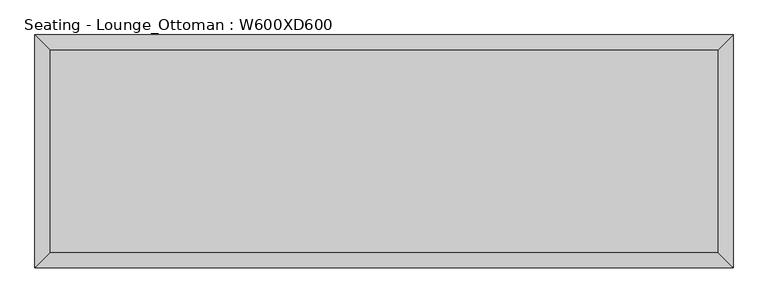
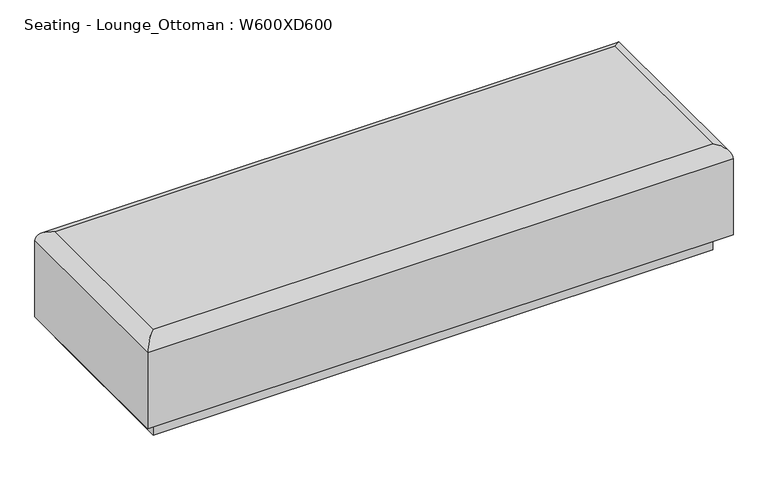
"""IFC4 building model written with IfcOpenShell, lengths in millimetres: furniture geometry, Seating - Lounge_Ottoman : W600XD600."""

from ifc_helpers import new_model, si_unit, frame, origin, place, context, project, spatial, ellipse_curve, source, transform, mapped, element, save
from ifc_brep_helpers import plane_surface, cylinder_surface, advanced_brep


def seating_lounge_ottoman_w600xd600_d2cb215e(model_context):
    return source(origin(), model_context, "Body", "AdvancedBrep", [
        advanced_brep(
        [(-874.4, -264.8, 350.0), (874.4, -264.8, 350.0), (874.4, 264.8, 350.0), (-874.4, 264.8, 350.0), (874.4, -264.8, 0.0), (-874.4, -264.8, 0.0), (-874.4, 264.8, 0.0), (874.4, 264.8, 0.0), (874.4, -264.8, 60.0), (-874.4, -264.8, 60.0), (-874.4, 264.8, 60.0), (874.4, 264.8, 60.0), (-914.4, -304.8, 310.0), (-914.4, 304.8, 310.0), (-914.4, 304.8, 60.0), (-914.4, -304.8, 60.0), (914.4, 304.8, 310.0), (914.4, 304.8, 60.0), (914.4, -304.8, 310.0), (914.4, -304.8, 60.0)],
        [
            (0, 1),
            (1, 2),
            (2, 3),
            (3, 0),
            (4, 5),
            (5, 6),
            (6, 7),
            (7, 4),
            (4, 8),
            (8, 9),
            (9, 5),
            (9, 10),
            (10, 6),
            (10, 11),
            (11, 7),
            (11, 8),
            (12, 13),
            (13, 14),
            (14, 15),
            (15, 12),
            (12, 0, ellipse_curve(frame((-874.4, -264.8, 310.0), z_axis=(-0.7071067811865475, 0.7071067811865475, 0.0), x_axis=(-0.7071067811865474, -0.7071067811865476, 0.0)), 56.5685425, 40.0)),
            (3, 13, ellipse_curve(frame((-874.4, 264.8, 310.0), z_axis=(-0.7071067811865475, -0.7071067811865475, 0.0), x_axis=(0.7071067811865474, -0.7071067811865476, 0.0)), 56.5685425, 40.0)),
            (13, 16),
            (16, 17),
            (17, 14),
            (2, 16, ellipse_curve(frame((874.4, 264.8, 310.0), z_axis=(-0.7071067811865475, 0.7071067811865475, 0.0), x_axis=(-0.7071067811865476, -0.7071067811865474, 0.0)), 56.5685425, 40.0)),
            (16, 18),
            (18, 19),
            (19, 17),
            (1, 18, ellipse_curve(frame((874.4, -264.8, 310.0), z_axis=(0.7071067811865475, 0.7071067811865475, 0.0), x_axis=(-0.7071067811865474, 0.7071067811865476, 0.0)), 56.5685425, 40.0)),
            (19, 15),
            (18, 12),
        ],
        [
            plane_surface(frame((-874.4, -264.8, 350.0), z_axis=(0.0, 0.0, 1.0), x_axis=(-1.0, 0.0, 0.0))),
            plane_surface(frame((-874.4, -264.8, 0.0), z_axis=(0.0, 0.0, -1.0), x_axis=(1.0, 0.0, 0.0))),
            plane_surface(frame((874.4, -264.8, 350.0), z_axis=(0.0, -1.0, 0.0), x_axis=(0.0, 0.0, -1.0))),
            plane_surface(frame((-874.4, -264.8, 350.0), z_axis=(-1.0, 0.0, 0.0), x_axis=(0.0, 0.0, -1.0))),
            plane_surface(frame((-874.4, 264.8, 350.0), z_axis=(0.0, 1.0, 0.0), x_axis=(0.0, 0.0, -1.0))),
            plane_surface(frame((874.4, 264.8, 350.0), z_axis=(1.0, 0.0, 0.0), x_axis=(0.0, 0.0, -1.0))),
            plane_surface(frame((-914.4, -304.8, 60.0), z_axis=(-1.0, 0.0, 0.0), x_axis=(0.0, 1.0, 0.0))),
            cylinder_surface(frame((-874.4, -264.8, 310.0), z_axis=(0.0, -1.0, 0.0), x_axis=(1.0, 0.0, 0.0)), 40.0),
            plane_surface(frame((-914.4, 304.8, 60.0), z_axis=(0.0, 1.0, 0.0), x_axis=(1.0, 0.0, 0.0))),
            cylinder_surface(frame((-874.4, 264.8, 310.0), z_axis=(-1.0, 0.0, 0.0), x_axis=(0.0, -1.0, 0.0)), 40.0),
            plane_surface(frame((914.4, 304.8, 60.0), z_axis=(1.0, 0.0, 0.0), x_axis=(0.0, -1.0, 0.0))),
            cylinder_surface(frame((874.4, 264.8, 310.0), z_axis=(0.0, 1.0, 0.0), x_axis=(-1.0, 0.0, 0.0)), 40.0),
            plane_surface(frame((874.4, -264.8, 60.0), z_axis=(0.0, 0.0, -1.0), x_axis=(-1.0, 0.0, 0.0))),
            plane_surface(frame((914.4, -304.8, 60.0), z_axis=(0.0, -1.0, 0.0), x_axis=(-1.0, 0.0, 0.0))),
            cylinder_surface(frame((874.4, -264.8, 310.0), z_axis=(1.0, 0.0, 0.0), x_axis=(0.0, 1.0, 0.0)), 40.0),
        ],
        [
            (0, [[1, 2, 3, 4]]),
            (1, [[5, 6, 7, 8]]),
            (2, [[9, 10, 11, -5]]),
            (3, [[-11, 12, 13, -6]]),
            (4, [[-13, 14, 15, -7]]),
            (5, [[-15, 16, -9, -8]]),
            (6, [[17, 18, 19, 20]]),
            (7, [[21, -4, 22, -17]]),
            (8, [[23, 24, 25, -18]]),
            (9, [[-3, 26, -23, -22]]),
            (10, [[27, 28, 29, -24]]),
            (11, [[-2, 30, -27, -26]]),
            (12, [[-25, -29, 31, -19], [-16, -14, -12, -10]]),
            (13, [[-31, -28, 32, -20]]),
            (14, [[-32, -30, -1, -21]]),
        ],
    ),
    ])


if __name__ == "__main__":
    model = new_model("IFC4")
    model_context = context("Model", 3, world=origin())
    ifc_project = project(units=[si_unit("LENGTHUNIT", "METRE", prefix="MILLI")], contexts=[model_context])
    site = spatial("IfcSite", under=ifc_project)
    building = spatial("IfcBuilding", under=site)
    placement = place(None, origin())
    seating_lounge_ottoman_w600xd600_shape = seating_lounge_ottoman_w600xd600_d2cb215e(model_context)
    element("IfcFurniture", 1, ObjectType="Seating - Lounge_Ottoman : W600XD600", at=placement, inside=building, context=model_context, shape_type="MappedRepresentation", body=[
        mapped(seating_lounge_ottoman_w600xd600_shape, transform((0.0, 0.0, 0.0), x_axis=(1.0, 0.0, 0.0), y_axis=(0.0, 1.0, 0.0), z_axis=(0.0, 0.0, 1.0))),
    ])
    save(model, "model.ifc")
